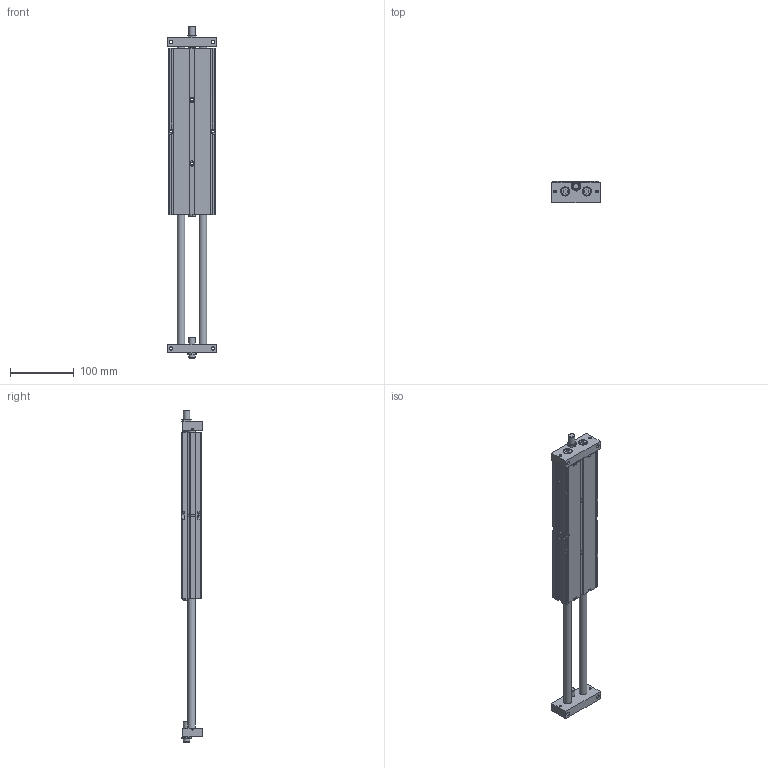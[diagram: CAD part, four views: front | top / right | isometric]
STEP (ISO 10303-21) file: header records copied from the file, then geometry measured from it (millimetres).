
FILE_DESCRIPTION((''),'2;1');
FILE_NAME('I:\3D電子目錄\氣缸\STU\STU\STU25\STU25x200.stp','2007-10-01T11:45:23',('Administrator'),(''),'Autodesk Inventor 11','Autodesk Inventor 11','');
FILE_SCHEMA(('AUTOMOTIVE_DESIGN { 1 0 10303 214 1 1 1 1 }'));
Length unit declared in the file: millimetre
Products named in the file (1): STU25
Bounding box: 77 x 33 x 522 mm (x, y, z)
Volume: 651902.1 mm3; surface area: 116174.2 mm2
Topology: 1 solids, 1 shells, 350 faces, 884 edges, 559 vertices
Faces by surface type: plane 163, cone 81, bspline 58, cylinder 44, torus 4
Full cylindrical faces by diameter (mm): 2.459 x2, 8 x2, 10 x4, 12 x2, 13 x4, 14 x4, 28 x2, 29.6 x2
Entity records: 11240 total; most frequent: CARTESIAN_POINT 3736, ORIENTED_EDGE 1484, DIRECTION 1462, EDGE_CURVE 742, AXIS2_PLACEMENT_3D 555, EDGE_LOOP 530, VERTEX_POINT 522, VECTOR 352
